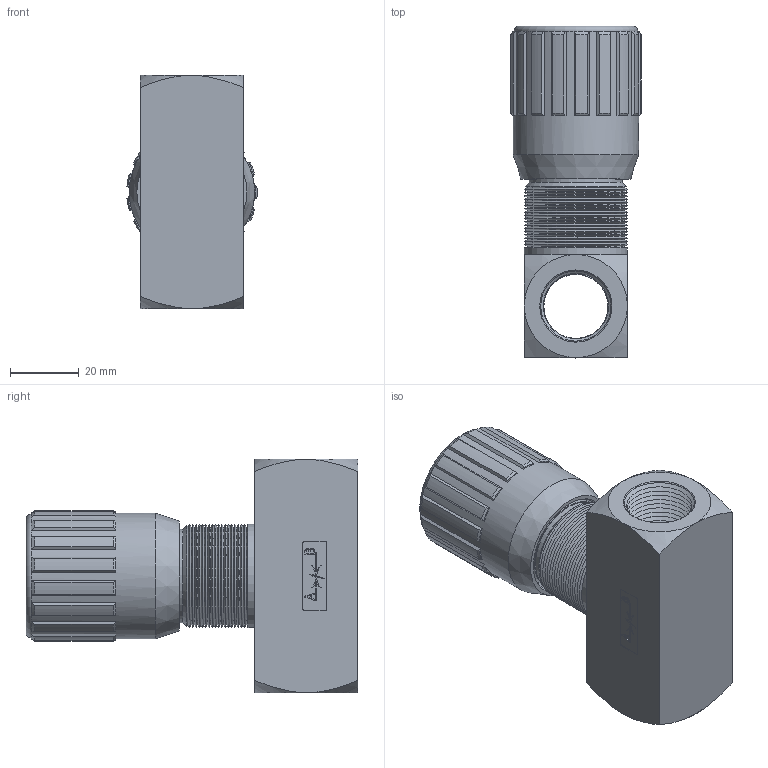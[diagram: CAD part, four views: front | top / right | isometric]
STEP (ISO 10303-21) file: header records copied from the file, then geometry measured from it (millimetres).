
FILE_DESCRIPTION (( 'STEP AP214' ), '1' );
FILE_NAME ('2257-2-12.STEP', '2015-04-11T08:23:58', ( 'cperuzzotti' ), ( 'Hewlett-Packard Company' ), 'SwSTEP 2.0', 'SolidWorks 2014', '' );
FILE_SCHEMA (( 'AUTOMOTIVE_DESIGN' ));
Length unit declared in the file: millimetre
Products named in the file (1): 2257-2-12
Bounding box: 37.91 x 96.5 x 68 mm (x, y, z)
Surface area: 25140.2 mm2 (no closed solid volume)
Topology: 0 solids, 27 shells, 628 faces, 2110 edges, 1427 vertices
Faces by surface type: plane 370, cone 107, bspline 85, cylinder 65, torus 1
Full cylindrical faces by diameter (mm): 5 x1, 27.1 x1, 27.6 x1, 30 x1, 36.5 x1
Entity records: 34739 total; most frequent: CARTESIAN_POINT 10741, ORIENTED_EDGE 3391, DIRECTION 3101, EDGE_CURVE 2032, VERTEX_POINT 1420, VECTOR 1409, LINE 1409, AXIS2_PLACEMENT_3D 846
